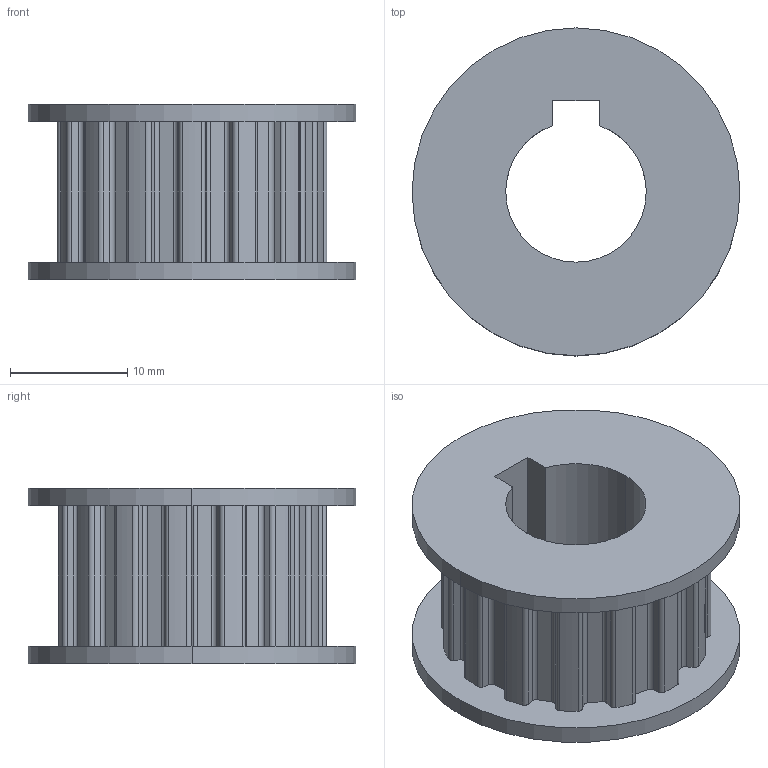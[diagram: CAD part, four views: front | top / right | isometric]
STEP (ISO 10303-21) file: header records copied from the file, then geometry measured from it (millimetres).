
FILE_DESCRIPTION (( 'STEP AP203' ), '1' );
FILE_NAME ('627.001.008.STEP', '2013-01-29T10:04:56', ( 'Alusic' ), ( 'Alusic' ), 'SwSTEP 2.0', 'SolidWorks 2011', '' );
FILE_SCHEMA (( 'CONFIG_CONTROL_DESIGN' ));
Length unit declared in the file: millimetre
Products named in the file (1): 627.001.008
Bounding box: 28 x 28 x 15 mm (x, y, z)
Volume: 4570.2 mm3; surface area: 3448.1 mm2
Topology: 1 solids, 1 shells, 134 faces, 390 edges, 260 vertices
Faces by surface type: cylinder 82, plane 52
Entity records: 4579 total; most frequent: DIRECTION 824, CARTESIAN_POINT 785, ORIENTED_EDGE 780, EDGE_CURVE 390, AXIS2_PLACEMENT_3D 299, VERTEX_POINT 260, VECTOR 226, LINE 226
